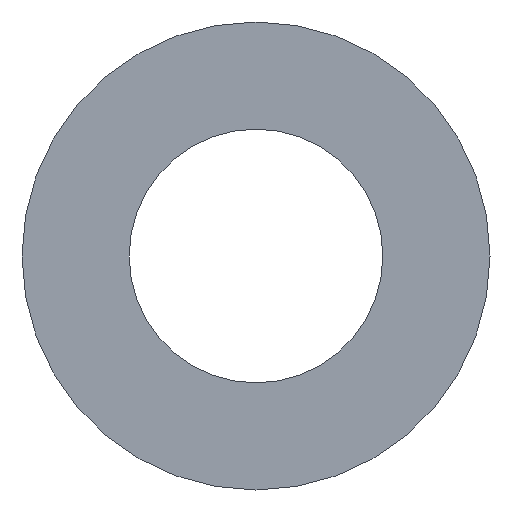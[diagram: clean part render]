
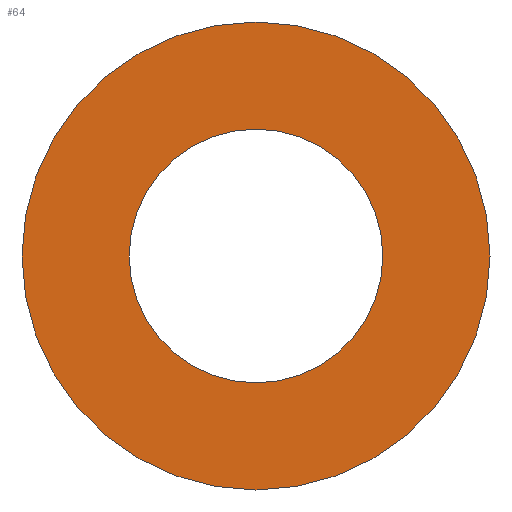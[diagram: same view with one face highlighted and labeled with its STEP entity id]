
A CAD part, left-side view. The second image highlights one B-rep face of the part: STEP entity #64.
In plain terms, the highlighted planar face has unit normal (-1, 0, 0).
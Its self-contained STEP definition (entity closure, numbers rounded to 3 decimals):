
#16=FACE_BOUND('',#28,.T.);
#18=PLANE('',#95);
#22=FACE_OUTER_BOUND('',#27,.T.);
#27=EDGE_LOOP('',(#57));
#28=EDGE_LOOP('',(#58));
#33=CIRCLE('',#89,4.2);
#36=CIRCLE('',#93,7.75);
#37=VERTEX_POINT('',#118);
#40=VERTEX_POINT('',#126);
#41=EDGE_CURVE('',#37,#37,#33,.T.);
#46=EDGE_CURVE('',#40,#40,#36,.T.);
#57=ORIENTED_EDGE('',*,*,#46,.T.);
#58=ORIENTED_EDGE('',*,*,#41,.T.);
#64=ADVANCED_FACE('',(#22,#16),#18,.T.);
#89=AXIS2_PLACEMENT_3D('',#119,#100,#101);
#93=AXIS2_PLACEMENT_3D('',#128,#110,#111);
#95=AXIS2_PLACEMENT_3D('',#130,#114,#115);
#100=DIRECTION('center_axis',(1.,0.,0.));
#101=DIRECTION('ref_axis',(0.,-1.,0.));
#110=DIRECTION('center_axis',(-1.,0.,0.));
#111=DIRECTION('ref_axis',(0.,-1.,0.));
#114=DIRECTION('center_axis',(-1.,0.,0.));
#115=DIRECTION('ref_axis',(0.,0.,1.));
#118=CARTESIAN_POINT('',(0.,4.2,0.));
#119=CARTESIAN_POINT('Origin',(0.,0.,0.));
#126=CARTESIAN_POINT('',(0.,7.75,0.));
#128=CARTESIAN_POINT('Origin',(0.,0.,0.));
#130=CARTESIAN_POINT('Origin',(0.,0.,0.));
